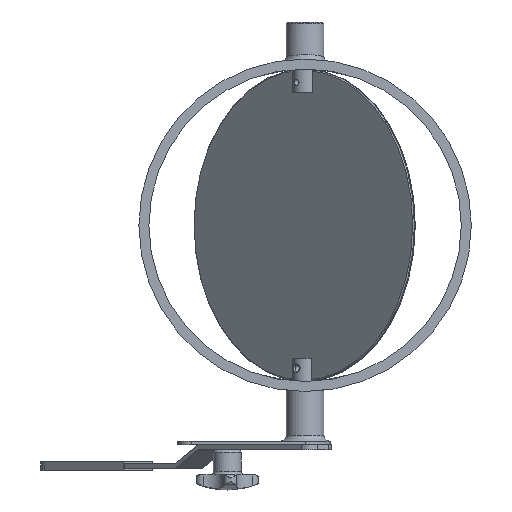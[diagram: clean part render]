
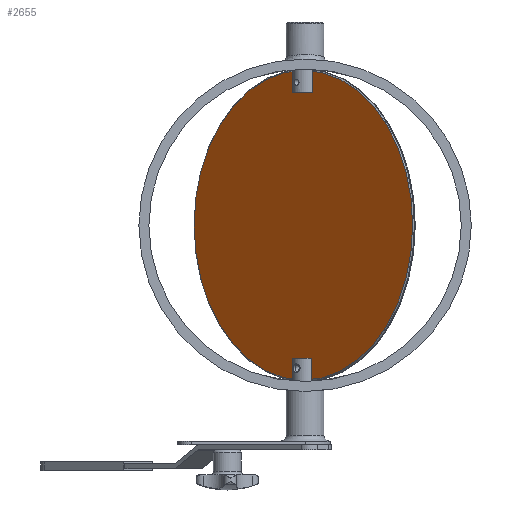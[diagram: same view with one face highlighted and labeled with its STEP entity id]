
A CAD part, front view. The second image highlights one B-rep face of the part: STEP entity #2655.
In plain terms, the highlighted planar face has unit normal (-0.709, -0.705, 0) as drawn and (0, 0, -1) by its records, which use the part's own axes.
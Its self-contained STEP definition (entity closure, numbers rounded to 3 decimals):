
#2613=CARTESIAN_POINT('',(191.557,0.,0.0));
#2614=VERTEX_POINT('',#2613);
#2615=CARTESIAN_POINT('',(68.057,0.,0.0));
#2616=DIRECTION('',(0.0,0.0,1.0));
#2617=DIRECTION('',(-1.0,0.0,0.0));
#2618=AXIS2_PLACEMENT_3D('',#2615,#2616,#2617);
#2619=CIRCLE('',#2618,123.5);
#2620=EDGE_CURVE('',#2614,#2614,#2619,.T.);
#2625=CARTESIAN_POINT('',(68.057,0.,0.0));
#2626=DIRECTION('',(0.0,0.0,-1.0));
#2627=DIRECTION('',(-1.0,0.0,0.0));
#2628=AXIS2_PLACEMENT_3D('',#2625,#2626,#2627);
#2629=PLANE('',#2628);
#2630=ORIENTED_EDGE('',*,*,#2620,.F.);
#2631=EDGE_LOOP('',(#2630));
#2632=FACE_OUTER_BOUND('',#2631,.T.);
#2633=CARTESIAN_POINT('',(-42.943,0.,0.0));
#2634=VERTEX_POINT('',#2633);
#2635=CARTESIAN_POINT('',(-45.943,0.,0.0));
#2636=DIRECTION('',(0.0,0.0,1.0));
#2637=DIRECTION('',(-1.0,0.0,0.0));
#2638=AXIS2_PLACEMENT_3D('',#2635,#2636,#2637);
#2639=CIRCLE('',#2638,3.);
#2640=EDGE_CURVE('',#2634,#2634,#2639,.T.);
#2641=ORIENTED_EDGE('',*,*,#2640,.T.);
#2642=EDGE_LOOP('',(#2641));
#2643=FACE_BOUND('',#2642,.T.);
#2644=CARTESIAN_POINT('',(185.057,0.,0.0));
#2645=VERTEX_POINT('',#2644);
#2646=CARTESIAN_POINT('',(182.057,0.,0.0));
#2647=DIRECTION('',(0.0,0.0,1.0));
#2648=DIRECTION('',(-1.0,0.0,0.0));
#2649=AXIS2_PLACEMENT_3D('',#2646,#2647,#2648);
#2650=CIRCLE('',#2649,3.);
#2651=EDGE_CURVE('',#2645,#2645,#2650,.T.);
#2652=ORIENTED_EDGE('',*,*,#2651,.T.);
#2653=EDGE_LOOP('',(#2652));
#2654=FACE_BOUND('',#2653,.T.);
#2655=ADVANCED_FACE('',(#2632,#2643,#2654),#2629,.T.);
